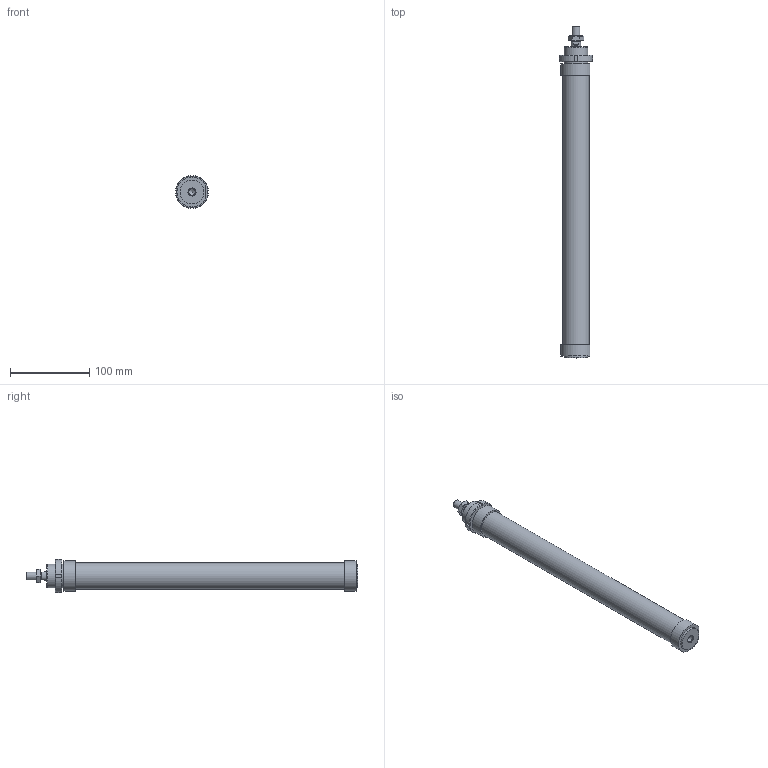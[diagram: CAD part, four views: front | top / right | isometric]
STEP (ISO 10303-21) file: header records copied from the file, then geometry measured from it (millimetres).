
FILE_DESCRIPTION((''),'2;1');
FILE_NAME('I:\Area Tecnica\Disegni\VARIE-3D\Componenti\1280\1281_##_####_#\1281_32_0300.iam.stp','2009-06-04T09:41:22',(''),(''),'Autodesk Inventor 2010','Autodesk Inventor 2010','');
FILE_SCHEMA(('AUTOMOTIVE_DESIGN { 1 0 10303 214 1 1 1 1 }'));
Length unit declared in the file: millimetre
Products named in the file (5): 1281_32_0300; C1281_32_300; S1280_32_300; 1200_32_05; 1200_32_06
Assembly tree (4 placements, depth 2):
  1281_32_0300
    C1281_32_300
    S1280_32_300
    1200_32_05
    1200_32_06
Bounding box: 41.7 x 419.5 x 41.7 mm (x, y, z)
Volume: 358287.7 mm3; surface area: 75555.3 mm2
Topology: 4 solids, 4 shells, 88 faces, 195 edges, 124 vertices
Faces by surface type: plane 39, cone 22, bspline 14, cylinder 13
Full cylindrical faces by diameter (mm): 8.8 x1, 10 x1, 12 x2, 30 x2, 33.6 x1
Entity records: 2663 total; most frequent: CARTESIAN_POINT 675, DIRECTION 362, ORIENTED_EDGE 338, EDGE_CURVE 169, AXIS2_PLACEMENT_3D 150, EDGE_LOOP 122, VERTEX_POINT 119, STYLED_ITEM 92
